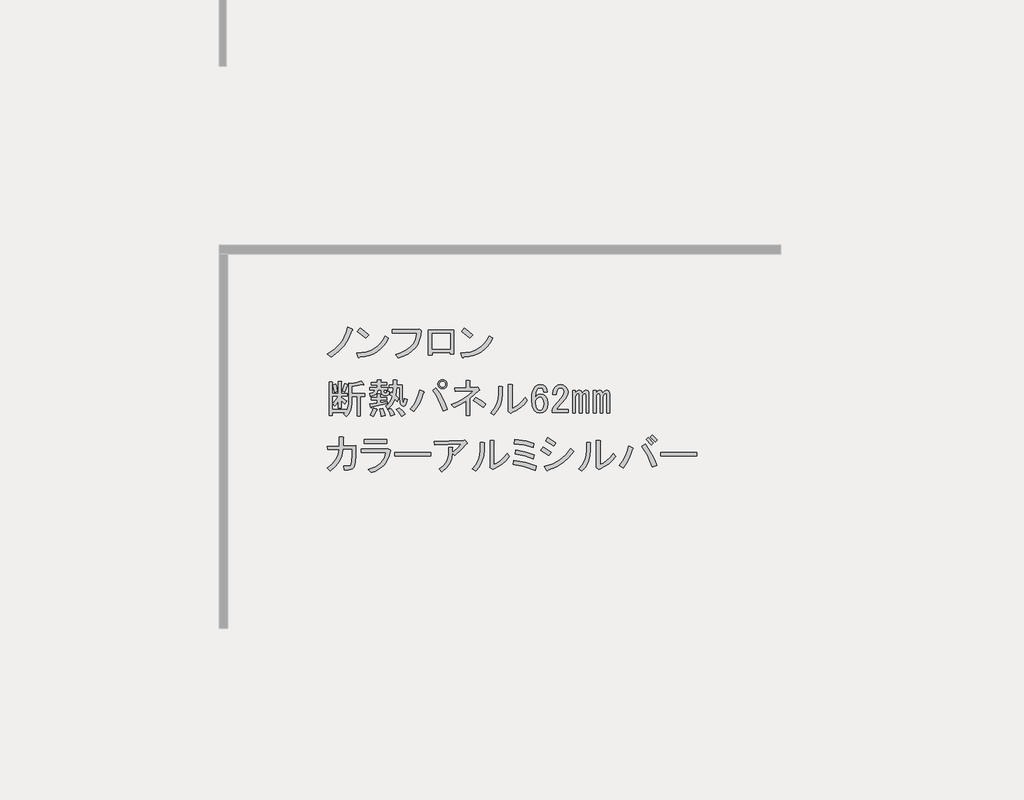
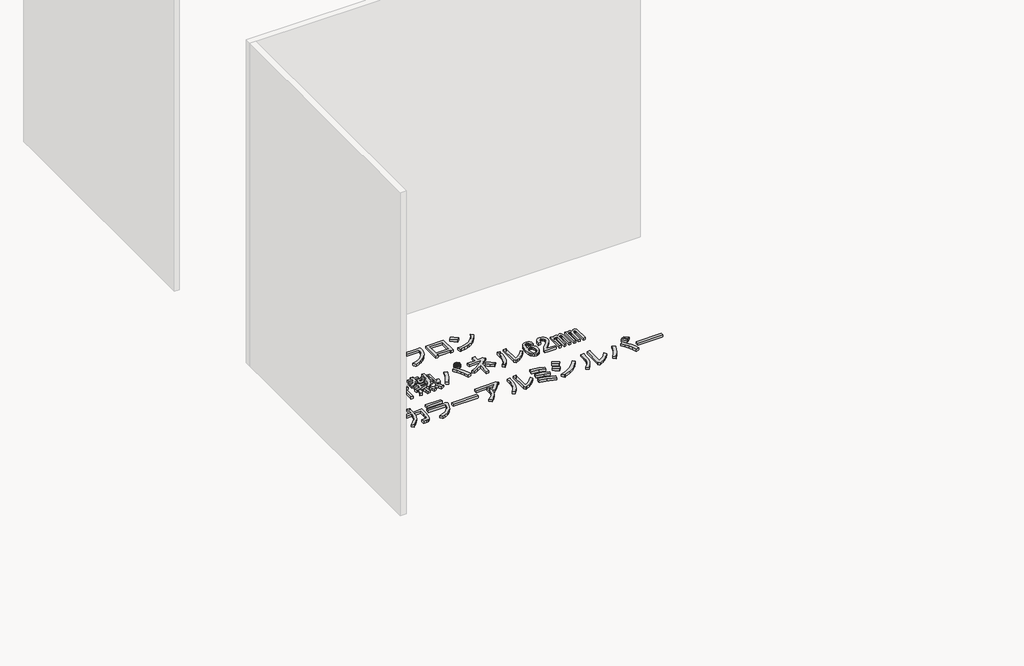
# One storey, part 84 of 117: 1 proxy.
"""IFC4 building model written with IfcOpenShell, lengths in millimetres."""

from ifc_helpers import new_model, si_unit, frame, origin, place, context, project, spatial, polyline, outline, extrude, element, save

model = new_model("IFC4")

# Units and contexts
model_context = context("Model", 3, world=origin())
ifc_project = project(units=[si_unit("LENGTHUNIT", "METRE", prefix="MILLI")], contexts=[model_context])

# Site, building, storey
site = spatial("IfcSite", under=ifc_project)
building = spatial("IfcBuilding", under=site)
storey = spatial("IfcBuildingStorey", under=building, Name="レベル 1", Elevation=500.0)

# Proxy
placement = place(None, origin())
element("IfcBuildingElementProxy", 1, Name="200㎜\u3000MS Pゴシック", ObjectType="200㎜\u3000MS Pゴシック", at=placement, inside=storey, context=model_context, shape_type="SweptSolid", body=[
    extrude(outline(polyline([(943.6706985, 3392.9503118), (918.0952502, 3333.1784775), (889.646156, 3287.2001434), (847.9782907, 3241.7965385), (798.8389462, 3204.439142), (771.2519457, 3226.2788507), (818.9544673, 3256.7394971), (858.6107805, 3295.2463519), (875.9963381, 3319.1694538), (891.3703435, 3347.2593423), (904.7327969, 3379.5160173), (916.0836981, 3415.9394788), (947.1190736, 3402.1459786), (950.2800841, 3397.5481452), (943.6706985, 3392.9503118)])), frame((0.0, 0.0, 500.0), z_axis=(0.0, 0.0, 1.0), x_axis=(1.0, 0.0, 0.0)), (0.0, 0.0, 1.0), 25.0),
    extrude(outline(polyline([(1043.3977052, 3337.7763109), (984.7753292, 3384.9041033), (1004.3161212, 3409.0427287), (1031.6157571, 3389.2145721), (1065.2374138, 3359.6160196), (1043.3977052, 3337.7763109)])), frame((0.0, 0.0, 500.0), z_axis=(0.0, 0.0, 1.0), x_axis=(1.0, 0.0, 0.0)), (0.0, 0.0, 1.0), 25.0),
    extrude(outline(polyline([(1205.4713328, 3337.7763109), (1188.947869, 3308.034076), (1169.8381239, 3282.0275808), (1148.1420975, 3259.7568252), (1123.8597898, 3241.2218093), (1096.9912008, 3226.422533), (1067.5363306, 3215.3589964), (1035.495179, 3208.0311994), (1000.8677461, 3204.439142), (995.1204544, 3196.3929336), (989.3731626, 3202.1402253), (980.1774958, 3232.0261425), (1016.0082679, 3234.7022252), (1048.7857912, 3241.0062859), (1078.5100658, 3250.9383244), (1105.1810916, 3264.4983409), (1128.7988687, 3281.6863354), (1149.363397, 3302.5023077), (1166.8746766, 3326.946258), (1181.3327074, 3355.0181862), (1205.4713328, 3337.7763109)])), frame((0.0, 0.0, 500.0), z_axis=(0.0, 0.0, 1.0), x_axis=(1.0, 0.0, 0.0)), (0.0, 0.0, 1.0), 25.0),
    extrude(outline(polyline([(1256.2314136, 3222.8304757), (1290.014713, 3232.5110702), (1319.5234641, 3244.8857078), (1344.757667, 3259.9543884), (1365.7173217, 3277.717112), (1382.402428, 3298.1738786), (1394.8129862, 3321.3246882), (1402.9489961, 3347.1695409), (1406.8104577, 3375.7084365), (1234.3917049, 3375.7084365), (1234.3917049, 3400.9965202), (1409.1093744, 3400.9965202), (1425.2017914, 3404.4448953), (1437.8458332, 3392.9503118), (1434.325617, 3356.4550091), (1426.0638851, 3323.4080815), (1413.0606375, 3293.8095289), (1395.3158742, 3267.6593514), (1372.8295952, 3244.957549), (1345.6018005, 3225.7041216), (1313.6324901, 3209.8990692), (1276.921664, 3197.5423919), (1256.2314136, 3222.8304757)])), frame((0.0, 0.0, 500.0), z_axis=(0.0, 0.0, 1.0), x_axis=(1.0, 0.0, 0.0)), (0.0, 0.0, 1.0), 25.0),
    extrude(outline(polyline([(1670.955987, 3223.979934), (1644.5184449, 3223.979934), (1644.5184449, 3236.6239759), (1516.9285679, 3236.6239759), (1516.9285679, 3218.2326423), (1490.4910258, 3218.2326423), (1490.4910258, 3397.5481452), (1670.955987, 3397.5481452), (1670.955987, 3223.979934)]), holes=[polyline([(1516.9285679, 3372.2600614), (1516.9285679, 3261.9120596), (1644.5184449, 3261.9120596), (1644.5184449, 3372.2600614), (1516.9285679, 3372.2600614)])]), frame((0.0, 0.0, 500.0), z_axis=(0.0, 0.0, 1.0), x_axis=(1.0, 0.0, 0.0)), (0.0, 0.0, 1.0), 25.0),
    extrude(outline(polyline([(1947.0099049, 3337.7763109), (1930.4864411, 3308.034076), (1911.376696, 3282.0275808), (1889.6806696, 3259.7568252), (1865.3983619, 3241.2218093), (1838.5297729, 3226.422533), (1809.0749026, 3215.3589964), (1777.0337511, 3208.0311994), (1742.4063182, 3204.439142), (1736.6590264, 3196.3929336), (1730.9117347, 3202.1402253), (1721.7160679, 3232.0261425), (1757.5468399, 3234.7022252), (1790.3243633, 3241.0062859), (1820.0486378, 3250.9383244), (1846.7196637, 3264.4983409), (1870.3374407, 3281.6863354), (1890.9019691, 3302.5023077), (1908.4132486, 3326.946258), (1922.8712795, 3355.0181862), (1947.0099049, 3337.7763109)])), frame((0.0, 0.0, 500.0), z_axis=(0.0, 0.0, 1.0), x_axis=(1.0, 0.0, 0.0)), (0.0, 0.0, 1.0), 25.0),
    extrude(outline(polyline([(1784.9362772, 3337.7763109), (1726.3139013, 3384.9041033), (1745.8546933, 3409.0427287), (1773.1543291, 3389.2145721), (1806.7759859, 3359.6160196), (1784.9362772, 3337.7763109)])), frame((0.0, 0.0, 500.0), z_axis=(0.0, 0.0, 1.0), x_axis=(1.0, 0.0, 0.0)), (0.0, 0.0, 1.0), 25.0),
    extrude(outline(polyline([(877.0021141, 2960.7654779), (894.2439894, 3013.6405621), (914.9342397, 3007.8932704), (916.6584273, 3004.7322599), (912.635323, 3002.1459786), (895.3934478, 2953.8687278), (877.0021141, 2960.7654779)])), frame((0.0, 0.0, 500.0), z_axis=(0.0, 0.0, 1.0), x_axis=(1.0, 0.0, 0.0)), (0.0, 0.0, 1.0), 25.0),
    extrude(outline(polyline([(1031.0295333, 3009.0427287), (1029.3053458, 3004.4448953), (1021.8338665, 3006.743812), (944.8201569, 2994.0997701), (944.8201569, 2944.673061), (1036.7768251, 2944.673061), (1036.7768251, 2922.8333523), (1005.7414495, 2922.8333523), (1005.7414495, 2782.5994334), (982.7522825, 2782.5994334), (982.7522825, 2922.8333523), (944.8201569, 2922.8333523), (944.8201569, 2873.4066432), (942.2338756, 2845.6041193), (934.4750317, 2820.8189236), (921.5436253, 2799.051056), (903.4396562, 2780.3005167), (886.1977809, 2799.8413086), (896.5429061, 2809.0369755), (806.8851546, 2809.0369755), (806.8851546, 2787.1972668), (783.8959876, 2787.1972668), (783.8959876, 3026.284604), (805.7356963, 3026.284604), (810.6208943, 3023.9856873), (806.8851546, 3019.3878539), (806.8851546, 2943.5236026), (849.4151137, 2943.5236026), (849.4151137, 3030.8824374), (867.8064473, 3030.8824374), (872.6916453, 3028.5835207), (868.9559057, 3023.9856873), (868.9559057, 2943.5236026), (912.635323, 2943.5236026), (912.635323, 2925.132269), (868.9559057, 2925.132269), (868.9559057, 2915.9366022), (909.186948, 2889.4990601), (895.3934478, 2867.6593514), (868.9559057, 2894.0968935), (868.9559057, 2841.2218093), (849.4151137, 2841.2218093), (849.4151137, 2889.4990601), (836.1963426, 2869.6709035), (821.8281132, 2853.8658512), (809.1840713, 2872.2571848), (831.02378, 2896.3958102), (848.2656553, 2925.132269), (806.8851546, 2925.132269), (806.8851546, 2830.8766841), (904.5891146, 2830.8766841), (904.5891146, 2817.0831839), (917.520521, 2841.2218093), (921.8309898, 2874.5561015), (921.8309898, 3019.3878539), (943.6706985, 3013.6405621), (979.8786366, 3021.1120414), (1010.339283, 3034.3308125), (1031.0295333, 3009.0427287)])), frame((0.0, 0.0, 500.0), z_axis=(0.0, 0.0, 1.0), x_axis=(1.0, 0.0, 0.0)), (0.0, 0.0, 1.0), 25.0),
    extrude(outline(polyline([(822.9775716, 2952.7192695), (810.3335297, 3003.2954369), (829.8743217, 3010.1921871), (837.6331656, 2986.0535617), (842.5183636, 2959.6160196), (822.9775716, 2952.7192695)])), frame((0.0, 0.0, 500.0), z_axis=(0.0, 0.0, 1.0), x_axis=(1.0, 0.0, 0.0)), (0.0, 0.0, 1.0), 25.0),
    extrude(outline(polyline([(1121.8367431, 2832.0261425), (1125.2851182, 2827.1409445), (1119.5378264, 2823.979934), (1109.7674304, 2798.4044857), (1098.8475761, 2779.1510583), (1075.858409, 2790.6456418), (1088.5024509, 2814.209538), (1098.8475761, 2841.2218093), (1121.8367431, 2832.0261425)])), frame((0.0, 0.0, 500.0), z_axis=(0.0, 0.0, 1.0), x_axis=(1.0, 0.0, 0.0)), (0.0, 0.0, 1.0), 25.0),
    extrude(outline(polyline([(1166.6656188, 2836.6239759), (1176.7233794, 2809.32434), (1181.6085774, 2787.1972668), (1152.8721186, 2781.449975), (1150.2858373, 2803.0023191), (1142.5269934, 2833.1756008), (1166.6656188, 2836.6239759)])), frame((0.0, 0.0, 500.0), z_axis=(0.0, 0.0, 1.0), x_axis=(1.0, 0.0, 0.0)), (0.0, 0.0, 1.0), 25.0),
    extrude(outline(polyline([(1281.611454, 2842.3712677), (1306.3248086, 2821.1062881), (1325.2908714, 2796.3929336), (1298.8533293, 2781.449975), (1279.5999019, 2811.0485276), (1260.9212037, 2830.8766841), (1281.611454, 2842.3712677)])), frame((0.0, 0.0, 500.0), z_axis=(0.0, 0.0, 1.0), x_axis=(1.0, 0.0, 0.0)), (0.0, 0.0, 1.0), 25.0),
    extrude(outline(polyline([(1222.9890781, 2783.7488917), (1214.655505, 2808.4622463), (1201.1493694, 2829.7272258), (1221.8396197, 2837.7734343), (1238.7941304, 2816.2210902), (1250.5760785, 2792.9445585), (1222.9890781, 2783.7488917)])), frame((0.0, 0.0, 500.0), z_axis=(0.0, 0.0, 1.0), x_axis=(1.0, 0.0, 0.0)), (0.0, 0.0, 1.0), 25.0),
    extrude(outline(polyline([(1083.9046175, 2846.9691011), (1081.8930654, 2842.0839031), (1078.1573257, 2843.520726), (1072.410034, 2867.6593514), (1127.5840349, 2875.7055599), (1127.5840349, 2898.6947269), (1083.9046175, 2898.6947269), (1083.9046175, 2917.0860605), (1127.5840349, 2917.0860605), (1127.5840349, 2940.0752276), (1145.9753685, 2940.0752276), (1150.8605665, 2937.7763109), (1147.1248268, 2933.1784775), (1147.1248268, 2917.0860605), (1191.9537026, 2917.0860605), (1191.9537026, 2898.6947269), (1147.1248268, 2898.6947269), (1147.1248268, 2879.1539349), (1197.7009943, 2888.3496017), (1197.7009943, 2872.2571848), (1083.9046175, 2846.9691011)])), frame((0.0, 0.0, 500.0), z_axis=(0.0, 0.0, 1.0), x_axis=(1.0, 0.0, 0.0)), (0.0, 0.0, 1.0), 25.0),
    extrude(outline(polyline([(1154.021577, 2968.8116864), (1128.7334932, 2968.8116864), (1124.1356598, 2951.3542877), (1113.7905346, 2938.0636755), (1097.6981177, 2928.9398498), (1075.858409, 2923.9828107), (1071.2605756, 2943.5236026), (1096.5486594, 2952.1445403), (1104.0201386, 2959.4723373), (1108.0432429, 2968.8116864), (1072.410034, 2968.8116864), (1072.410034, 2987.20302), (1126.4345765, 2987.20302), (1126.4345765, 3004.4448953), (1082.7551591, 3004.4448953), (1082.7551591, 3022.8362289), (1126.4345765, 3022.8362289), (1126.4345765, 3041.2275626), (1148.2742852, 3041.2275626), (1153.1594832, 3038.9286459), (1149.4237436, 3034.3308125), (1149.4237436, 3022.8362289), (1191.9537026, 3022.8362289), (1191.9537026, 3004.4448953), (1149.4237436, 3004.4448953), (1149.4237436, 2987.20302), (1202.2988277, 2987.20302), (1202.2988277, 2968.8116864), (1173.5623689, 2968.8116864), (1173.5623689, 2956.1676445), (1174.9991919, 2950.9950819), (1179.3096607, 2949.2708944), (1189.6547859, 2949.2708944), (1193.3905255, 2952.4319049), (1193.1031609, 2961.9149363), (1212.6439529, 2959.6160196), (1209.770307, 2938.0636755), (1204.4540622, 2932.6755894), (1196.551536, 2930.8795608), (1172.4129106, 2930.8795608), (1158.6194104, 2935.7647588), (1154.021577, 2950.4203528), (1154.021577, 2968.8116864)])), frame((0.0, 0.0, 500.0), z_axis=(0.0, 0.0, 1.0), x_axis=(1.0, 0.0, 0.0)), (0.0, 0.0, 1.0), 25.0),
    extrude(outline(polyline([(1285.0598291, 2986.0535617), (1263.2201204, 2986.0535617), (1258.622287, 2928.5806441), (1278.163079, 2910.1893104), (1267.8179538, 2888.3496017), (1251.7255369, 2904.4420187), (1232.4721095, 2866.7972576), (1202.2988277, 2834.3250592), (1185.0569525, 2855.0153095), (1200.1435933, 2866.9409399), (1213.2186821, 2882.0275808), (1224.2822187, 2900.2752321), (1233.3342033, 2921.683894), (1216.092328, 2936.6268525), (1224.1385364, 2953.8687278), (1237.9320367, 2943.5236026), (1240.2309534, 2986.0535617), (1212.6439529, 2986.0535617), (1212.6439529, 3004.4448953), (1240.2309534, 3004.4448953), (1240.2309534, 3038.9286459), (1262.0706621, 3038.9286459), (1266.95586, 3036.6297292), (1263.2201204, 3032.0318957), (1263.2201204, 3004.4448953), (1304.6006211, 3004.4448953), (1304.6006211, 2907.8903937), (1308.0489961, 2883.7517683), (1311.2818477, 2881.7402162), (1314.0836525, 2884.9012267), (1318.3941213, 2906.7409354), (1337.9349133, 2899.8441853), (1333.408921, 2873.0474374), (1325.578236, 2857.0268616), (1314.4428582, 2851.7824579), (1300.0027877, 2857.3142262), (1293.4652433, 2864.6420232), (1288.7955687, 2876.280289), (1285.0598291, 2912.4882271), (1285.0598291, 2986.0535617)])), frame((0.0, 0.0, 500.0), z_axis=(0.0, 0.0, 1.0), x_axis=(1.0, 0.0, 0.0)), (0.0, 0.0, 1.0), 25.0),
    extrude(outline(polyline([(1543.6879583, 2983.754645), (1570.3410238, 2947.0438188), (1592.8273029, 2909.3272167), (1611.1467953, 2870.6048384), (1625.2995013, 2830.8766841), (1594.2641258, 2820.531559), (1578.8182792, 2863.6362472), (1561.2171982, 2902.143102), (1541.4608827, 2936.0521234), (1519.5493329, 2965.3633113), (1543.6879583, 2983.754645)])), frame((0.0, 0.0, 500.0), z_axis=(0.0, 0.0, 1.0), x_axis=(1.0, 0.0, 0.0)), (0.0, 0.0, 1.0), 25.0),
    extrude(outline(polyline([(1456.3291235, 2957.3171029), (1460.3522278, 2951.8571757), (1454.0302068, 2946.9719777), (1442.1045764, 2911.5542922), (1427.0179356, 2877.717112), (1408.7702842, 2845.460437), (1387.3616224, 2814.7842672), (1360.9240803, 2832.0261425), (1384.1287708, 2863.4925649), (1403.1666748, 2896.9705394), (1418.0377922, 2932.460066), (1428.7421231, 2969.9611447), (1456.3291235, 2957.3171029)])), frame((0.0, 0.0, 500.0), z_axis=(0.0, 0.0, 1.0), x_axis=(1.0, 0.0, 0.0)), (0.0, 0.0, 1.0), 25.0),
    extrude(outline(polyline([(1589.6662924, 2978.0073532), (1577.0222505, 2980.3062699), (1566.6771253, 2987.20302), (1559.7803752, 2997.5481452), (1557.4814585, 3010.1921871), (1559.7803752, 3022.8362289), (1566.6771253, 3033.1813541), (1577.0222505, 3040.0781042), (1589.6662924, 3042.3770209), (1602.3103343, 3040.0781042), (1612.6554594, 3033.1813541), (1619.5522095, 3022.8362289), (1621.8511262, 3010.1921871), (1619.5522095, 2997.5481452), (1612.6554594, 2987.20302), (1602.3103343, 2980.3062699), (1589.6662924, 2978.0073532)]), holes=[polyline([(1589.6662924, 2989.5019367), (1597.9998654, 2990.9387597), (1604.609251, 2995.2492285), (1608.9197198, 3001.858614), (1610.3565427, 3010.1921871), (1608.9197198, 3018.5257601), (1604.609251, 3025.1351456), (1597.9998654, 3029.4456145), (1589.6662924, 3030.8824374), (1581.3327193, 3029.4456145), (1574.7233338, 3025.1351456), (1570.412865, 3018.5257601), (1568.976042, 3010.1921871), (1570.412865, 3001.858614), (1574.7233338, 2995.2492285), (1581.3327193, 2990.9387597), (1589.6662924, 2989.5019367)])]), frame((0.0, 0.0, 500.0), z_axis=(0.0, 0.0, 1.0), x_axis=(1.0, 0.0, 0.0)), (0.0, 0.0, 1.0), 25.0),
    extrude(outline(polyline([(1879.3297971, 2844.6701844), (1842.2597652, 2873.9813723), (1809.2128376, 2895.2463519), (1826.4547129, 2917.0860605), (1865.2489323, 2893.8095289), (1898.8705891, 2867.6593514), (1879.3297971, 2844.6701844)])), frame((0.0, 0.0, 500.0), z_axis=(0.0, 0.0, 1.0), x_axis=(1.0, 0.0, 0.0)), (0.0, 0.0, 1.0), 25.0),
    extrude(outline(polyline([(1833.351463, 2988.3524784), (1840.2482131, 2990.6513951), (1852.892255, 2973.4095198), (1854.0417134, 2967.3748634), (1848.2944216, 2965.3633113), (1785.0742122, 2909.0398521), (1785.0742122, 2788.3467251), (1758.6366701, 2788.3467251), (1758.6366701, 2890.6485184), (1718.4056278, 2866.5098931), (1673.5767521, 2844.6701844), (1654.0359601, 2865.3604347), (1699.5832473, 2884.8293855), (1740.8200657, 2907.6030291), (1777.7464152, 2933.6813655), (1810.362296, 2963.0643946), (1680.4735022, 2957.3171029), (1677.0251271, 2982.6051866), (1758.6366701, 2984.9041033), (1758.6366701, 3036.6297292), (1781.6258372, 3036.6297292), (1787.6604935, 3033.1813541), (1785.0742122, 3027.4340623), (1785.0742122, 2986.0535617), (1833.351463, 2988.3524784)])), frame((0.0, 0.0, 500.0), z_axis=(0.0, 0.0, 1.0), x_axis=(1.0, 0.0, 0.0)), (0.0, 0.0, 1.0), 25.0),
    extrude(outline(polyline([(1932.296838, 2806.7380587), (1957.4412394, 2835.9774056), (1975.4015262, 2868.5214452), (1986.1776982, 2904.3701775), (1989.7697556, 2943.5236026), (1989.7697556, 2995.2492285), (2013.908381, 2995.2492285), (2019.6556727, 2991.8008534), (2016.2072977, 2986.0535617), (2016.2072977, 2944.673061), (2012.3997169, 2898.9102504), (2000.9769745, 2858.17632), (1981.9390705, 2822.4712699), (1955.286005, 2791.7951002), (1932.296838, 2806.7380587)])), frame((0.0, 0.0, 500.0), z_axis=(0.0, 0.0, 1.0), x_axis=(1.0, 0.0, 0.0)), (0.0, 0.0, 1.0), 25.0),
    extrude(outline(polyline([(2086.3242571, 2837.7734343), (2111.1094529, 2849.9864292), (2134.8888725, 2867.0846222), (2157.6625161, 2889.0680132), (2179.4303837, 2915.9366022), (2195.5228006, 2894.0968935), (2172.246269, 2866.2943696), (2146.0960914, 2842.6586322), (2117.0722681, 2823.1896814), (2085.1747988, 2807.8875171), (2075.979132, 2803.2896837), (2057.5877983, 2817.0831839), (2059.886715, 2822.8304757), (2059.886715, 3007.8932704), (2084.0253404, 3007.8932704), (2089.7726322, 3004.4448953), (2086.3242571, 2998.6976035), (2086.3242571, 2837.7734343)])), frame((0.0, 0.0, 500.0), z_axis=(0.0, 0.0, 1.0), x_axis=(1.0, 0.0, 0.0)), (0.0, 0.0, 1.0), 25.0),
    extrude(outline(polyline([(2224.2592594, 2902.143102), (2225.9834469, 2931.5261311), (2231.1560095, 2956.4550091), (2239.7769471, 2976.929736), (2251.8462598, 2992.9503118), (2267.3639476, 3003.2954369), (2286.3300104, 3006.743812), (2306.158167, 3003.2954369), (2321.9632193, 2992.9503118), (2333.1704382, 2975.9958011), (2336.9061779, 2955.0181862), (2310.4686358, 2955.0181862), (2308.7444483, 2968.8116864), (2303.5718857, 2978.0073532), (2295.8130418, 2983.1799158), (2286.3300104, 2984.9041033), (2276.846979, 2983.1799158), (2269.0881351, 2978.0073532), (2261.0419266, 2967.0874989), (2255.2946349, 2952.7192695), (2250.6968015, 2913.6376855), (2262.191385, 2928.5806441), (2273.6859685, 2936.3394879), (2287.4794687, 2938.9257692), (2306.4455316, 2935.4773942), (2321.9632193, 2925.132269), (2334.8946258, 2903.5799249), (2339.2050946, 2873.4066432), (2334.6072612, 2842.0839031), (2320.813761, 2819.3821006), (2304.4339794, 2809.0369755), (2282.8816353, 2805.5886004), (2263.0534788, 2809.8990692), (2244.9495097, 2822.8304757), (2235.8975252, 2835.5463587), (2229.431822, 2853.0037574), (2224.2592594, 2902.143102)]), holes=[polyline([(2285.180552, 2918.2355189), (2274.5480623, 2916.2239668), (2265.6397601, 2910.1893104), (2256.1567286, 2895.2463519), (2252.9957182, 2875.7055599), (2256.4440932, 2851.5669345), (2266.7892184, 2834.3250592), (2275.1227915, 2828.2904028), (2284.0310937, 2826.2788507), (2293.5141251, 2828.0030383), (2301.272969, 2833.1756008), (2309.0318128, 2848.405924), (2311.6180941, 2873.4066432), (2309.0318128, 2895.821081), (2301.272969, 2910.1893104), (2293.2267605, 2916.2239668), (2285.180552, 2918.2355189)])]), frame((0.0, 0.0, 500.0), z_axis=(0.0, 0.0, 1.0), x_axis=(1.0, 0.0, 0.0)), (0.0, 0.0, 1.0), 25.0),
    extrude(outline(polyline([(2374.8383035, 2937.7763109), (2379.4361369, 2969.099051), (2393.2296371, 2991.8008534), (2409.6094186, 3003.0080724), (2428.862846, 3006.743812), (2451.5646485, 3003.0080724), (2469.0938884, 2991.8008534), (2480.3011073, 2975.1337073), (2484.0368469, 2955.0181862), (2479.7263781, 2929.1553732), (2466.7949717, 2906.7409354), (2433.4606795, 2868.8088098), (2415.0693458, 2848.1185594), (2401.2758456, 2829.7272258), (2487.485222, 2829.7272258), (2487.485222, 2807.8875171), (2370.2404701, 2807.8875171), (2370.2404701, 2827.4283091), (2376.2751264, 2841.2218093), (2389.7812621, 2859.6131429), (2436.9090545, 2911.3387688), (2451.5646485, 2932.6037483), (2456.4498465, 2955.0181862), (2454.1509298, 2967.662228), (2447.2541797, 2978.0073532), (2439.4953358, 2983.1799158), (2430.0123044, 2984.9041033), (2421.3913668, 2983.1799158), (2413.9198875, 2978.0073532), (2404.4368561, 2961.6275717), (2401.2758456, 2937.7763109), (2374.8383035, 2937.7763109)])), frame((0.0, 0.0, 500.0), z_axis=(0.0, 0.0, 1.0), x_axis=(1.0, 0.0, 0.0)), (0.0, 0.0, 1.0), 25.0),
    extrude(outline(polyline([(2536.9119311, 2806.7380587), (2517.3711392, 2806.7380587), (2517.3711392, 2964.213853), (2536.9119311, 2964.213853), (2536.9119311, 2946.9719777), (2548.9812438, 2962.4896654), (2562.2000149, 2967.662228), (2571.3956817, 2966.2254051), (2578.2924318, 2961.9149363), (2585.1891819, 2948.121436), (2598.1205884, 2962.77703), (2611.626724, 2967.662228), (2619.9602971, 2966.2254051), (2626.5696826, 2961.9149363), (2631.7422452, 2953.2939986), (2633.4664327, 2941.2246859), (2633.4664327, 2806.7380587), (2613.9256407, 2806.7380587), (2613.9256407, 2930.8795608), (2611.3393594, 2940.3625922), (2603.5805156, 2943.5236026), (2593.2353904, 2938.9257692), (2587.200734, 2930.3048316), (2585.1891819, 2920.5344356), (2585.1891819, 2806.7380587), (2565.6483899, 2806.7380587), (2565.6483899, 2930.8795608), (2563.0621086, 2940.3625922), (2555.3032648, 2943.5236026), (2544.9581396, 2938.9257692), (2538.9234833, 2930.3048316), (2536.9119311, 2920.5344356), (2536.9119311, 2806.7380587)])), frame((0.0, 0.0, 500.0), z_axis=(0.0, 0.0, 1.0), x_axis=(1.0, 0.0, 0.0)), (0.0, 0.0, 1.0), 25.0),
    extrude(outline(polyline([(2758.7573931, 2967.662228), (2767.0909661, 2966.2254051), (2773.7003517, 2961.9149363), (2778.8729142, 2953.2939986), (2780.5971018, 2941.2246859), (2780.5971018, 2806.7380587), (2761.0563098, 2806.7380587), (2761.0563098, 2930.8795608), (2758.4700285, 2940.3625922), (2750.7111846, 2943.5236026), (2740.3660594, 2938.9257692), (2734.3314031, 2930.3048316), (2732.319851, 2920.5344356), (2732.319851, 2806.7380587), (2712.779059, 2806.7380587), (2712.779059, 2930.8795608), (2710.1927777, 2940.3625922), (2702.4339338, 2943.5236026), (2692.0888087, 2938.9257692), (2686.0541523, 2930.3048316), (2684.0426002, 2920.5344356), (2684.0426002, 2806.7380587), (2664.5018082, 2806.7380587), (2664.5018082, 2964.213853), (2684.0426002, 2964.213853), (2684.0426002, 2946.9719777), (2696.1119129, 2962.4896654), (2709.3306839, 2967.662228), (2718.5263508, 2966.2254051), (2725.4231009, 2961.9149363), (2732.319851, 2948.121436), (2745.2512574, 2962.77703), (2758.7573931, 2967.662228)])), frame((0.0, 0.0, 500.0), z_axis=(0.0, 0.0, 1.0), x_axis=(1.0, 0.0, 0.0)), (0.0, 0.0, 1.0), 25.0),
    extrude(outline(polyline([(947.1190736, 2549.2708944), (881.5999475, 2546.9719777), (873.3382156, 2500.706279), (855.44977, 2459.6131429), (827.9346107, 2423.6925694), (790.7927377, 2392.9445585), (771.2519457, 2412.4853505), (806.2385843, 2440.7189213), (831.8858738, 2472.5445494), (848.1938142, 2507.9622349), (855.1624054, 2546.9719777), (773.5508624, 2544.673061), (771.2519457, 2567.662228), (856.3118638, 2569.9611447), (856.3118638, 2634.3308125), (880.4504892, 2634.3308125), (887.3472393, 2630.8824374), (882.7494059, 2625.1351456), (882.7494059, 2569.9611447), (973.5566157, 2573.4095198), (973.5566157, 2502.143102), (970.9703344, 2454.1532158), (963.2114905, 2422.8304757), (956.602105, 2412.7727151), (947.1190736, 2405.5886004), (934.7623963, 2401.2781316), (919.5320731, 2399.8413086), (891.9450727, 2399.8413086), (888.4966976, 2428.5777674), (918.3826148, 2426.2788507), (932.4634796, 2429.1524966), (940.2223235, 2437.7734343), (945.3948861, 2463.061518), (947.1190736, 2502.143102), (947.1190736, 2549.2708944)])), frame((0.0, 0.0, 500.0), z_axis=(0.0, 0.0, 1.0), x_axis=(1.0, 0.0, 0.0)), (0.0, 0.0, 1.0), 25.0),
    extrude(outline(polyline([(1061.9729521, 2403.2896837), (1111.6151847, 2421.6091762), (1131.8564279, 2433.7323697), (1149.0444223, 2447.8311948), (1163.179168, 2463.9056515), (1174.2606649, 2481.9557397), (1182.2889131, 2501.9814594), (1187.2639125, 2523.9828107), (1012.546243, 2523.9828107), (1012.546243, 2549.2708944), (1188.4133709, 2549.2708944), (1198.758496, 2552.7192695), (1219.4487464, 2540.0752276), (1222.3223922, 2534.6153004), (1217.1498297, 2529.7301024), (1211.0253719, 2502.2508637), (1201.8476653, 2477.2860651), (1189.6167101, 2454.8357067), (1174.332506, 2434.8997884), (1155.9950533, 2417.4783102), (1134.6043517, 2402.5712722), (1110.1604015, 2390.1786744), (1082.6632025, 2380.3005167), (1061.9729521, 2403.2896837)])), frame((0.0, 0.0, 500.0), z_axis=(0.0, 0.0, 1.0), x_axis=(1.0, 0.0, 0.0)), (0.0, 0.0, 1.0), 25.0),
    extrude(outline(polyline([(1191.8617459, 2589.5019367), (1033.2364933, 2589.5019367), (1033.2364933, 2614.7900205), (1191.8617459, 2614.7900205), (1191.8617459, 2589.5019367)])), frame((0.0, 0.0, 500.0), z_axis=(0.0, 0.0, 1.0), x_axis=(1.0, 0.0, 0.0)), (0.0, 0.0, 1.0), 25.0),
    extrude(outline(polyline([(1250.8979269, 2498.6947269), (1250.8979269, 2523.9828107), (1507.2271394, 2523.9828107), (1507.2271394, 2498.6947269), (1250.8979269, 2498.6947269)])), frame((0.0, 0.0, 500.0), z_axis=(0.0, 0.0, 1.0), x_axis=(1.0, 0.0, 0.0)), (0.0, 0.0, 1.0), 25.0),
    extrude(outline(polyline([(1659.8292302, 2521.683894), (1656.0216494, 2480.4470756), (1642.2999903, 2444.0954552), (1618.664253, 2412.6290328), (1585.1144373, 2386.0478084), (1565.5736453, 2407.8875171), (1595.244039, 2428.1467206), (1616.4371774, 2452.1416637), (1629.1530604, 2479.8723464), (1633.3916881, 2511.3387688), (1633.3916881, 2560.7654779), (1657.5303135, 2560.7654779), (1663.2776052, 2558.1791966), (1659.8292302, 2552.7192695), (1659.8292302, 2522.8333523), (1696.3245329, 2553.5813632), (1723.0494396, 2583.754645), (1535.6877282, 2576.8578948), (1533.3888115, 2603.2954369), (1742.5902315, 2609.0427287), (1750.63644, 2611.3416454), (1767.8783153, 2590.6513951), (1768.1656799, 2587.4903846), (1762.1310235, 2587.20302), (1724.1988979, 2543.8109672), (1679.3700222, 2503.2925603), (1659.8292302, 2521.683894)])), frame((0.0, 0.0, 500.0), z_axis=(0.0, 0.0, 1.0), x_axis=(1.0, 0.0, 0.0)), (0.0, 0.0, 1.0), 25.0),
    extrude(outline(polyline([(1802.8218492, 2406.7380587), (1827.9662506, 2435.9774056), (1845.9265374, 2468.5214452), (1856.7027094, 2504.3701775), (1860.2947668, 2543.5236026), (1860.2947668, 2595.2492285), (1884.4333922, 2595.2492285), (1890.1806839, 2591.8008534), (1886.7323089, 2586.0535617), (1886.7323089, 2544.673061), (1882.9247281, 2498.9102504), (1871.5019857, 2458.17632), (1852.4640818, 2422.4712699), (1825.8110162, 2391.7951002), (1802.8218492, 2406.7380587)])), frame((0.0, 0.0, 500.0), z_axis=(0.0, 0.0, 1.0), x_axis=(1.0, 0.0, 0.0)), (0.0, 0.0, 1.0), 25.0),
    extrude(outline(polyline([(1956.8492684, 2437.7734343), (1981.6344641, 2449.9864292), (2005.4138837, 2467.0846222), (2028.1875273, 2489.0680132), (2049.9553949, 2515.9366022), (2066.0478118, 2494.0968935), (2042.7712802, 2466.2943696), (2016.6211027, 2442.6586322), (1987.5972793, 2423.1896814), (1955.69981, 2407.8875171), (1946.5041432, 2403.2896837), (1928.1128096, 2417.0831839), (1930.4117263, 2422.8304757), (1930.4117263, 2607.8932704), (1954.5503517, 2607.8932704), (1960.2976434, 2604.4448953), (1956.8492684, 2598.6976035), (1956.8492684, 2437.7734343)])), frame((0.0, 0.0, 500.0), z_axis=(0.0, 0.0, 1.0), x_axis=(1.0, 0.0, 0.0)), (0.0, 0.0, 1.0), 25.0),
    extrude(outline(polyline([(2237.3171063, 2479.1539349), (2180.7062824, 2497.8326331), (2107.4283125, 2512.4882271), (2110.8766875, 2540.0752276), (2180.1315532, 2528.0059149), (2245.3633147, 2507.8903937), (2237.3171063, 2479.1539349)])), frame((0.0, 0.0, 500.0), z_axis=(0.0, 0.0, 1.0), x_axis=(1.0, 0.0, 0.0)), (0.0, 0.0, 1.0), 25.0),
    extrude(outline(polyline([(2251.1106065, 2395.2434752), (2167.4875114, 2422.5431111), (2093.6348123, 2437.7734343), (2099.382104, 2467.6593514), (2184.1546575, 2450.9922053), (2259.1568149, 2426.2788507), (2251.1106065, 2395.2434752)])), frame((0.0, 0.0, 500.0), z_axis=(0.0, 0.0, 1.0), x_axis=(1.0, 0.0, 0.0)), (0.0, 0.0, 1.0), 25.0),
    extrude(outline(polyline([(2106.2788541, 2615.9394788), (2187.3156679, 2604.1575307), (2241.9149397, 2589.5019367), (2235.0181896, 2559.6160196), (2173.2348031, 2576.5705303), (2102.8304791, 2586.0535617), (2106.2788541, 2615.9394788)])), frame((0.0, 0.0, 500.0), z_axis=(0.0, 0.0, 1.0), x_axis=(1.0, 0.0, 0.0)), (0.0, 0.0, 1.0), 25.0),
    extrude(outline(polyline([(2314.9285342, 2422.8304757), (2373.6945924, 2441.2936505), (2424.7018068, 2469.0961743), (2467.9501773, 2506.2380473), (2503.4397039, 2552.7192695), (2524.1299543, 2532.0290191), (2490.7956621, 2488.3496017), (2449.4151614, 2451.5669345), (2399.9884522, 2421.6810173), (2342.5155346, 2398.6918503), (2337.9177012, 2391.5077356), (2331.0209511, 2397.5423919), (2314.9285342, 2422.8304757)])), frame((0.0, 0.0, 500.0), z_axis=(0.0, 0.0, 1.0), x_axis=(1.0, 0.0, 0.0)), (0.0, 0.0, 1.0), 25.0),
    extrude(outline(polyline([(2306.8823257, 2561.9149363), (2365.5047017, 2525.132269), (2347.113368, 2500.9936436), (2289.6404504, 2537.7763109), (2306.8823257, 2561.9149363)])), frame((0.0, 0.0, 500.0), z_axis=(0.0, 0.0, 1.0), x_axis=(1.0, 0.0, 0.0)), (0.0, 0.0, 1.0), 25.0),
    extrude(outline(polyline([(2339.0671596, 2629.732979), (2397.6895355, 2592.9503118), (2381.5971186, 2568.8116864), (2324.124201, 2605.5943537), (2339.0671596, 2629.732979)])), frame((0.0, 0.0, 500.0), z_axis=(0.0, 0.0, 1.0), x_axis=(1.0, 0.0, 0.0)), (0.0, 0.0, 1.0), 25.0),
    extrude(outline(polyline([(2713.1009073, 2437.7734343), (2737.8861031, 2449.9864292), (2761.6655227, 2467.0846222), (2784.4391663, 2489.0680132), (2806.2070339, 2515.9366022), (2822.2994508, 2494.0968935), (2799.0229192, 2466.2943696), (2772.8727416, 2442.6586322), (2743.8489183, 2423.1896814), (2711.951449, 2407.8875171), (2702.7557822, 2403.2896837), (2684.3644485, 2417.0831839), (2686.6633652, 2422.8304757), (2686.6633652, 2607.8932704), (2710.8019906, 2607.8932704), (2716.5492824, 2604.4448953), (2713.1009073, 2598.6976035), (2713.1009073, 2437.7734343)])), frame((0.0, 0.0, 500.0), z_axis=(0.0, 0.0, 1.0), x_axis=(1.0, 0.0, 0.0)), (0.0, 0.0, 1.0), 25.0),
    extrude(outline(polyline([(2559.0734882, 2406.7380587), (2584.2178896, 2435.9774056), (2602.1781764, 2468.5214452), (2612.9543484, 2504.3701775), (2616.5464058, 2543.5236026), (2616.5464058, 2595.2492285), (2640.6850312, 2595.2492285), (2646.4323229, 2591.8008534), (2642.9839479, 2586.0535617), (2642.9839479, 2544.673061), (2639.1763671, 2498.9102504), (2627.7536247, 2458.17632), (2608.7157207, 2422.4712699), (2582.0626552, 2391.7951002), (2559.0734882, 2406.7380587)])), frame((0.0, 0.0, 500.0), z_axis=(0.0, 0.0, 1.0), x_axis=(1.0, 0.0, 0.0)), (0.0, 0.0, 1.0), 25.0),
    extrude(outline(polyline([(3032.6503292, 2583.754645), (3059.3033947, 2547.0438188), (3081.7896738, 2509.3272167), (3100.1091662, 2470.6048384), (3114.2618722, 2430.8766841), (3083.2264967, 2420.531559), (3067.7806501, 2463.6362472), (3050.1795691, 2502.143102), (3030.4232536, 2536.0521234), (3008.5117038, 2565.3633113), (3032.6503292, 2583.754645)])), frame((0.0, 0.0, 500.0), z_axis=(0.0, 0.0, 1.0), x_axis=(1.0, 0.0, 0.0)), (0.0, 0.0, 1.0), 25.0),
    extrude(outline(polyline([(2945.2914944, 2557.3171029), (2949.3145987, 2551.8571757), (2942.9925777, 2546.9719777), (2931.0669473, 2511.5542922), (2915.9803065, 2477.717112), (2897.7326551, 2445.460437), (2876.3239933, 2414.7842672), (2849.8864512, 2432.0261425), (2873.0911417, 2463.4925649), (2892.1290457, 2496.9705394), (2907.0001631, 2532.460066), (2917.704494, 2569.9611447), (2945.2914944, 2557.3171029)])), frame((0.0, 0.0, 500.0), z_axis=(0.0, 0.0, 1.0), x_axis=(1.0, 0.0, 0.0)), (0.0, 0.0, 1.0), 25.0),
    extrude(outline(polyline([(3083.2264967, 2646.9748543), (3120.009164, 2611.3416454), (3105.0662054, 2597.5481452), (3068.2835381, 2634.3308125), (3083.2264967, 2646.9748543)])), frame((0.0, 0.0, 500.0), z_axis=(0.0, 0.0, 1.0), x_axis=(1.0, 0.0, 0.0)), (0.0, 0.0, 1.0), 25.0),
    extrude(outline(polyline([(3055.6394962, 2629.732979), (3092.4221635, 2590.6513951), (3075.1802882, 2578.0073532), (3039.5470793, 2617.0889372), (3055.6394962, 2629.732979)])), frame((0.0, 0.0, 500.0), z_axis=(0.0, 0.0, 1.0), x_axis=(1.0, 0.0, 0.0)), (0.0, 0.0, 1.0), 25.0),
    extrude(outline(polyline([(3142.998331, 2498.6947269), (3142.998331, 2523.9828107), (3399.3275435, 2523.9828107), (3399.3275435, 2498.6947269), (3142.998331, 2498.6947269)])), frame((0.0, 0.0, 500.0), z_axis=(0.0, 0.0, 1.0), x_axis=(1.0, 0.0, 0.0)), (0.0, 0.0, 1.0), 25.0),
])

save(model, "model.ifc")
